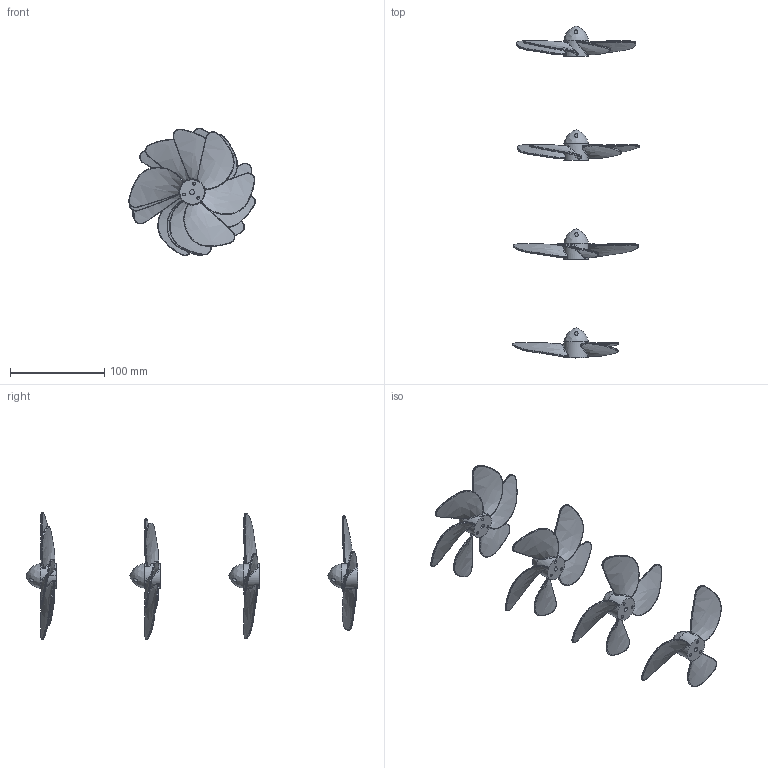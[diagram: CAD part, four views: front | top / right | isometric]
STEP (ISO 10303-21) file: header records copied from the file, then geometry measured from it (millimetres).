
FILE_DESCRIPTION(/* description */ (''),/* implementation_level */ '2;1');
FILE_NAME(/* name */ 'Assieme_ventola.stp',/* time_stamp */ '2025-01-19T10:20:40+01:00',/* author */ ('R5800u'),/* organization */ (''),/* preprocessor_version */ 'ST-DEVELOPER v20',/* originating_system */ 'Autodesk Inventor 2025',/* authorisation */ '');
FILE_SCHEMA (('AUTOMOTIVE_DESIGN { 1 0 10303 214 3 1 1 }'));
Products named in the file (6): Assieme_ventola; fan2b; fan_5p; fan_4p; fan_3p; ogiva
Assembly tree (8 placements, depth 2):
  Assieme_ventola
    fan2b
    ogiva  x4
    fan_5p
    fan_4p
    fan_3p
Bounding box: 134.23 x 351.76 x 134.86 mm (x, y, z)
Volume: 98240.5 mm3; surface area: 85304.8 mm2
Topology: 8 solids, 8 shells, 547 faces, 2661 edges, 2138 vertices
Faces by surface type: bspline 364, cylinder 137, plane 46
Full cylindrical faces by diameter (mm): 2 x12, 2.9 x12, 3.5 x12, 26 x4
Entity records: 78119 total; most frequent: CARTESIAN_POINT 61613, ORIENTED_EDGE 5176, EDGE_CURVE 2588, B_SPLINE_CURVE_WITH_KNOTS 2136, VERTEX_POINT 2087, DIRECTION 1071, EDGE_LOOP 555, FACE_OUTER_BOUND 514
